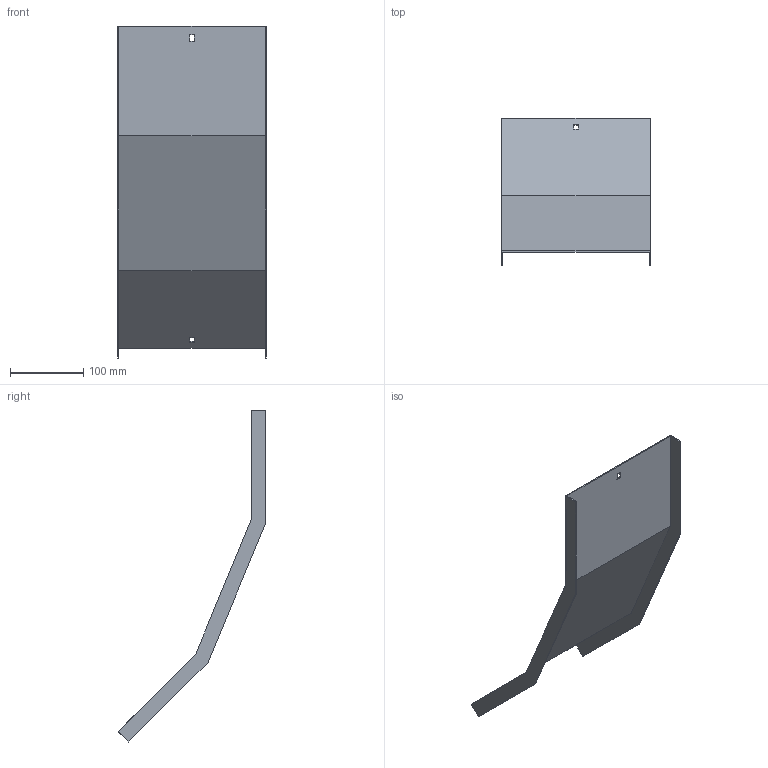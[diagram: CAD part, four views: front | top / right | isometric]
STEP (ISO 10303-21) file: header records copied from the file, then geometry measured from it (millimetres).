
FILE_DESCRIPTION (( 'STEP AP214' ), '1' );
FILE_NAME ('A2X31N5R200X.step', '2025-03-20T09:41:32', ( '' ), ( '' ), 'SwSTEP 2.0', 'SolidWorks 2023', '' );
FILE_SCHEMA (( 'AUTOMOTIVE_DESIGN' ));
Length unit declared in the file: millimetre
Products named in the file (1): A2X31N5R200X
Bounding box: 203 x 201.89 x 453.26 mm (x, y, z)
Volume: 179796.9 mm3; surface area: 242082.5 mm2
Topology: 1 solids, 1 shells, 26 faces, 72 edges, 48 vertices
Faces by surface type: plane 26
Entity records: 847 total; most frequent: CARTESIAN_POINT 147, ORIENTED_EDGE 144, DIRECTION 126, EDGE_CURVE 72, VECTOR 72, LINE 72, VERTEX_POINT 48, EDGE_LOOP 30
